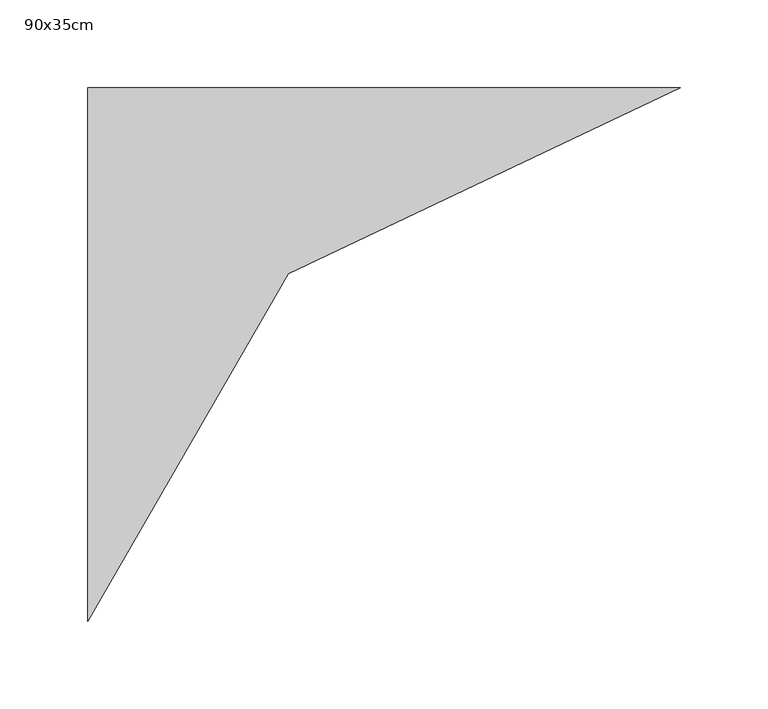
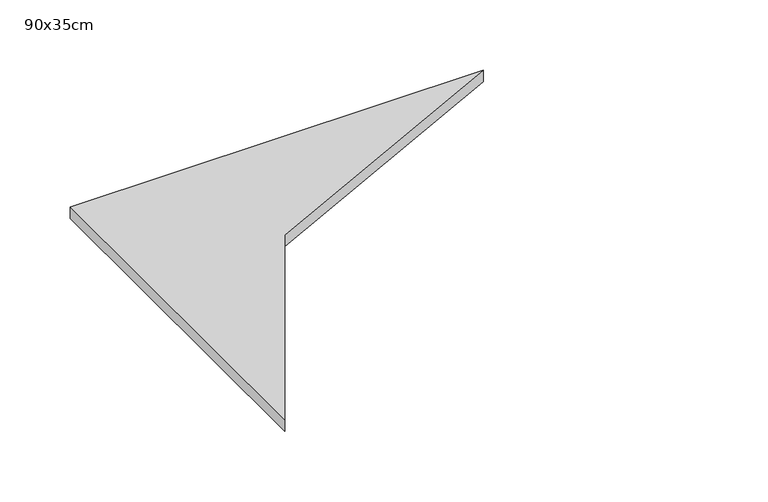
"""IFC4 building model written with IfcOpenShell, lengths in millimetres: flow terminal geometry, Trémie : 90x35cm."""

from ifc_helpers import new_model, si_unit, origin, origin_with_axes, place, context, project, spatial, polyline, outline, extrude, source, transform, mapped, element, save


def flow_terminal_90x35cm_c837f07c(model_context):
    return source(origin(), model_context, "Body", "SweptSolid", [
        extrude(outline(polyline([(513.7147795, -99.0), (289.5850908, -205.2556659), (175.0, -403.8653607), (175.0, -99.0), (513.7147795, -99.0)])), origin_with_axes(), (0.0, 0.0, 1.0), 10.0),
    ])


if __name__ == "__main__":
    model = new_model("IFC4")
    model_context = context("Model", 3, world=origin())
    ifc_project = project(units=[si_unit("LENGTHUNIT", "METRE", prefix="MILLI")], contexts=[model_context])
    site = spatial("IfcSite", under=ifc_project)
    building = spatial("IfcBuilding", under=site)
    placement = place(None, origin())
    flow_terminal_90x35cm_shape = flow_terminal_90x35cm_c837f07c(model_context)
    element("IfcFlowTerminal", 1, ObjectType="Trémie : 90x35cm", at=placement, inside=building, context=model_context, shape_type="MappedRepresentation", body=[
        mapped(flow_terminal_90x35cm_shape, transform((0.0, 0.0, 0.0), x_axis=(1.0, 0.0, 0.0), y_axis=(0.0, 1.0, 0.0), z_axis=(0.0, 0.0, 1.0))),
    ])
    save(model, "model.ifc")
